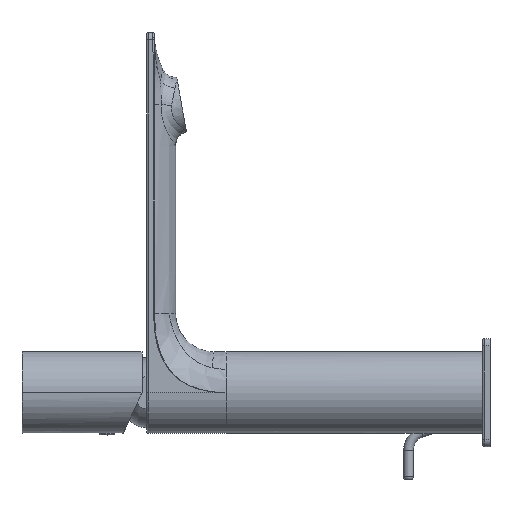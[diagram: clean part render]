
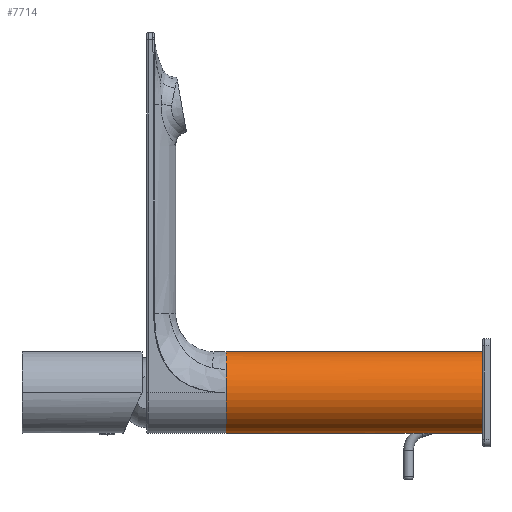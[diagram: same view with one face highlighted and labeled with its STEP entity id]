
A CAD part, left-side view. The second image highlights one B-rep face of the part: STEP entity #7714.
In plain terms, the highlighted cylindrical face has radius 17 mm (diameter 34 mm), a partial arc.
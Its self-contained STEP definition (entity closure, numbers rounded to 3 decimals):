
#329=DIRECTION('',(0.,1.,0.));
#330=VECTOR('',#329,107.);
#331=CARTESIAN_POINT('',(0.,0.,17.));
#332=LINE('',#331,#330);
#338=CARTESIAN_POINT('',(0.,107.,0.));
#339=DIRECTION('',(0.,1.,0.));
#340=DIRECTION('',(0.,0.,-1.));
#341=AXIS2_PLACEMENT_3D('',#338,#339,#340);
#343=CARTESIAN_POINT('',(0.,18.538,-17.));
#380=CARTESIAN_POINT('',(0.,33.157,-17.));
#382=CARTESIAN_POINT('',(0.,0.,0.));
#383=DIRECTION('',(0.,1.,0.));
#384=DIRECTION('',(0.,0.,-1.));
#385=AXIS2_PLACEMENT_3D('',#382,#383,#384);
#387=DIRECTION('',(0.,1.,0.));
#388=VECTOR('',#387,18.538);
#389=CARTESIAN_POINT('',(0.,0.,-17.));
#390=LINE('',#389,#388);
#391=CARTESIAN_POINT('',(0.,33.157,-17.));
#392=CARTESIAN_POINT('',(-0.048,33.157,-17.));
#393=CARTESIAN_POINT('',(-0.147,33.148,
-17.));
#394=CARTESIAN_POINT('',(-0.298,33.103,
-16.998));
#395=CARTESIAN_POINT('',(-0.456,33.024,
-16.994));
#396=CARTESIAN_POINT('',(-0.62,32.905,
-16.989));
#397=CARTESIAN_POINT('',(-0.784,32.746,
-16.982));
#398=CARTESIAN_POINT('',(-0.946,32.548,
-16.974));
#399=CARTESIAN_POINT('',(-1.107,32.309,-16.964));
#400=CARTESIAN_POINT('',(-1.265,32.03,-16.953));
#401=CARTESIAN_POINT('',(-1.42,31.709,-16.941));
#402=CARTESIAN_POINT('',(-1.572,31.342,-16.927));
#403=CARTESIAN_POINT('',(-1.719,30.928,-16.913));
#404=CARTESIAN_POINT('',(-1.861,30.462,-16.898));
#405=CARTESIAN_POINT('',(-1.996,29.94,-16.883));
#406=CARTESIAN_POINT('',(-2.124,29.358,-16.867));
#407=CARTESIAN_POINT('',(-2.241,28.708,-16.852));
#408=CARTESIAN_POINT('',(-2.344,27.985,-16.838));
#409=CARTESIAN_POINT('',(-2.428,27.179,-16.826));
#410=CARTESIAN_POINT('',(-2.487,26.281,-16.817));
#411=CARTESIAN_POINT('',(-2.508,25.264,-16.814));
#412=CARTESIAN_POINT('',(-2.48,24.258,-16.818));
#413=CARTESIAN_POINT('',(-2.412,23.385,-16.828));
#414=CARTESIAN_POINT('',(-2.316,22.616,-16.842));
#415=CARTESIAN_POINT('',(-2.195,21.93,-16.858));
#416=CARTESIAN_POINT('',(-2.056,21.323,-16.875));
#417=CARTESIAN_POINT('',(-1.9,20.785,-16.894));
#418=CARTESIAN_POINT('',(-1.73,20.314,-16.912));
#419=CARTESIAN_POINT('',(-1.55,19.905,-16.93));
#420=CARTESIAN_POINT('',(-1.36,19.554,-16.946));
#421=CARTESIAN_POINT('',(-1.163,19.258,-16.961));
#422=CARTESIAN_POINT('',(-0.962,19.017,
-16.973));
#423=CARTESIAN_POINT('',(-0.758,18.828,
-16.983));
#424=CARTESIAN_POINT('',(-0.556,18.689,
-16.991));
#425=CARTESIAN_POINT('',(-0.363,18.599,
-16.996));
#426=CARTESIAN_POINT('',(-0.18,18.549,
-16.999));
#427=CARTESIAN_POINT('',(-0.059,18.538,-17.));
#428=CARTESIAN_POINT('',(0.,18.538,-17.));
#430=DIRECTION('',(0.,1.,0.));
#431=VECTOR('',#430,73.843);
#432=CARTESIAN_POINT('',(0.,33.157,-17.));
#433=LINE('',#432,#431);
#3628=CARTESIAN_POINT('',(0.,107.,0.));
#3629=DIRECTION('',(0.,1.,0.));
#3630=DIRECTION('',(-1.,0.,0.));
#3631=AXIS2_PLACEMENT_3D('',#3628,#3629,#3630);
#3831=CARTESIAN_POINT('',(0.,107.,0.));
#3832=DIRECTION('',(0.,1.,0.));
#3833=DIRECTION('',(-0.819,0.,0.574));
#3834=AXIS2_PLACEMENT_3D('',#3831,#3832,#3833);
#6255=CARTESIAN_POINT('',(0.,107.,-17.));
#6256=CARTESIAN_POINT('',(-17.,107.,0.));
#6257=VERTEX_POINT('',#6255);
#6258=VERTEX_POINT('',#6256);
#6306=CARTESIAN_POINT('',(-13.926,107.,9.751));
#6307=VERTEX_POINT('',#6306);
#6348=CARTESIAN_POINT('',(0.,107.,17.));
#6349=VERTEX_POINT('',#6348);
#6404=VERTEX_POINT('',#343);
#6405=VERTEX_POINT('',#380);
#6862=CARTESIAN_POINT('',(0.,0.,17.));
#6863=CARTESIAN_POINT('',(0.,0.,-17.));
#6864=VERTEX_POINT('',#6862);
#6865=VERTEX_POINT('',#6863);
#7696=CARTESIAN_POINT('',(0.,0.,0.));
#7697=DIRECTION('',(0.,1.,0.));
#7698=DIRECTION('',(0.,0.,1.));
#7699=AXIS2_PLACEMENT_3D('',#7696,#7697,#7698);
#7700=CYLINDRICAL_SURFACE('',#7699,17.);
#7701=ORIENTED_EDGE('',*,*,#7662,.F.);
#7702=ORIENTED_EDGE('',*,*,#7691,.T.);
#7704=ORIENTED_EDGE('',*,*,#7703,.F.);
#7705=ORIENTED_EDGE('',*,*,#7687,.T.);
#7706=ORIENTED_EDGE('',*,*,#7685,.T.);
#7708=ORIENTED_EDGE('',*,*,#7707,.T.);
#7710=ORIENTED_EDGE('',*,*,#7709,.T.);
#7711=ORIENTED_EDGE('',*,*,#7673,.F.);
#7712=EDGE_LOOP('',(#7701,#7702,#7704,#7705,#7706,#7708,#7710,#7711));
#7713=FACE_OUTER_BOUND('',#7712,.F.);
#7714=ADVANCED_FACE('',(#7713),#7700,.T.);
#342=CIRCLE('',#341,17.);
#386=CIRCLE('',#385,17.);
#429=B_SPLINE_CURVE_WITH_KNOTS('',3,(#391,#392,#393,#394,#395,#396,#397,#398,
#399,#400,#401,#402,#403,#404,#405,#406,#407,#408,#409,#410,#411,#412,#413,#414,
#415,#416,#417,#418,#419,#420,#421,#422,#423,#424,#425,#426,#427,#428),
.UNSPECIFIED.,.F.,.F.,(4,1,1,1,1,1,1,1,1,1,1,1,1,1,1,1,1,1,1,1,1,1,1,1,1,1,1,1,
1,1,1,1,1,1,1,4),(0.,0.029,0.057,0.086,
0.114,0.143,0.171,0.2,0.229,
0.257,0.286,0.314,0.343,
0.371,0.4,0.429,0.457,0.486,
0.514,0.543,0.571,0.6,0.629,
0.657,0.686,0.714,0.743,
0.771,0.8,0.829,0.857,0.886,
0.914,0.943,0.971,1.),.UNSPECIFIED.);
#3632=CIRCLE('',#3631,17.);
#3835=CIRCLE('',#3834,17.);
#7662=EDGE_CURVE('',#6865,#6864,#386,.T.);
#7673=EDGE_CURVE('',#6864,#6349,#332,.T.);
#7685=EDGE_CURVE('',#6257,#6258,#342,.T.);
#7687=EDGE_CURVE('',#6405,#6257,#433,.T.);
#7691=EDGE_CURVE('',#6865,#6404,#390,.T.);
#7703=EDGE_CURVE('',#6405,#6404,#429,.T.);
#7707=EDGE_CURVE('',#6258,#6307,#3632,.T.);
#7709=EDGE_CURVE('',#6307,#6349,#3835,.T.);
